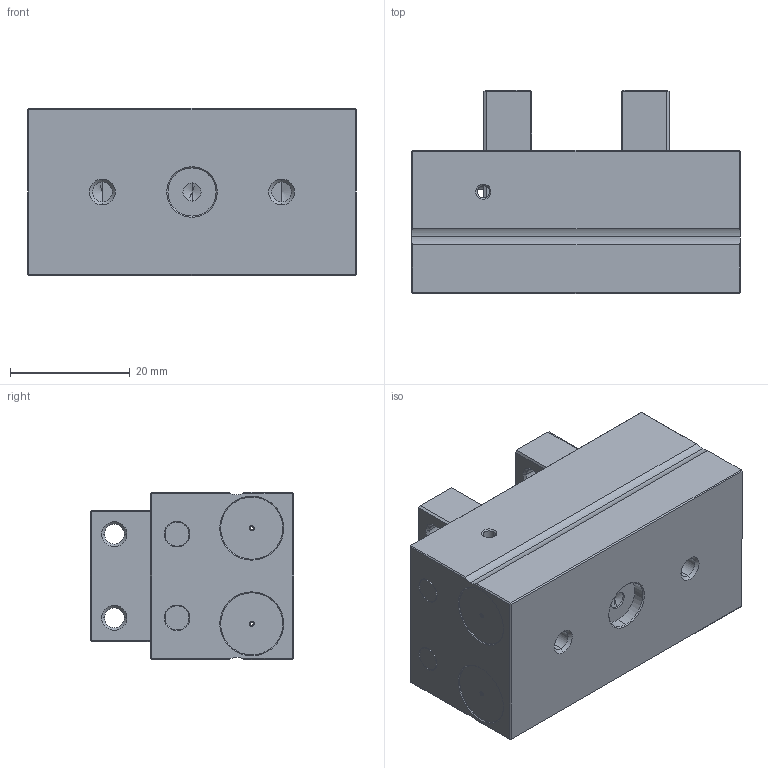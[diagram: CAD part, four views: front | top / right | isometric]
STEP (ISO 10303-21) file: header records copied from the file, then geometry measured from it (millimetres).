
FILE_DESCRIPTION (( 'STEP AP214' ), '1' );
FILE_NAME ('SHBA10-15敕磁.STEP', '2023-12-15T12:42:37', ( '' ), ( '' ), 'SwSTEP 2.0', 'SolidWorks 2018', '' );
FILE_SCHEMA (( 'AUTOMOTIVE_DESIGN' ));
Length unit declared in the file: millimetre
Products named in the file (3): SHBA10-15敕磁; SHBA10-02_賑蛈倰第蹋; SHBA10-01
Assembly tree (3 placements, depth 2):
  SHBA10-15敕磁
    SHBA10-01
    SHBA10-02_賑蛈倰第蹋  x2
Bounding box: 55 x 34 x 28 mm (x, y, z)
Volume: 30979.3 mm3; surface area: 16216.9 mm2
Topology: 3 solids, 3 shells, 297 faces, 695 edges, 405 vertices
Faces by surface type: plane 150, cone 76, cylinder 71
Entity records: 7064 total; most frequent: CARTESIAN_POINT 1339, DIRECTION 1166, ORIENTED_EDGE 1088, EDGE_CURVE 544, AXIS2_PLACEMENT_3D 416, VECTOR 334, LINE 334, VERTEX_POINT 325
